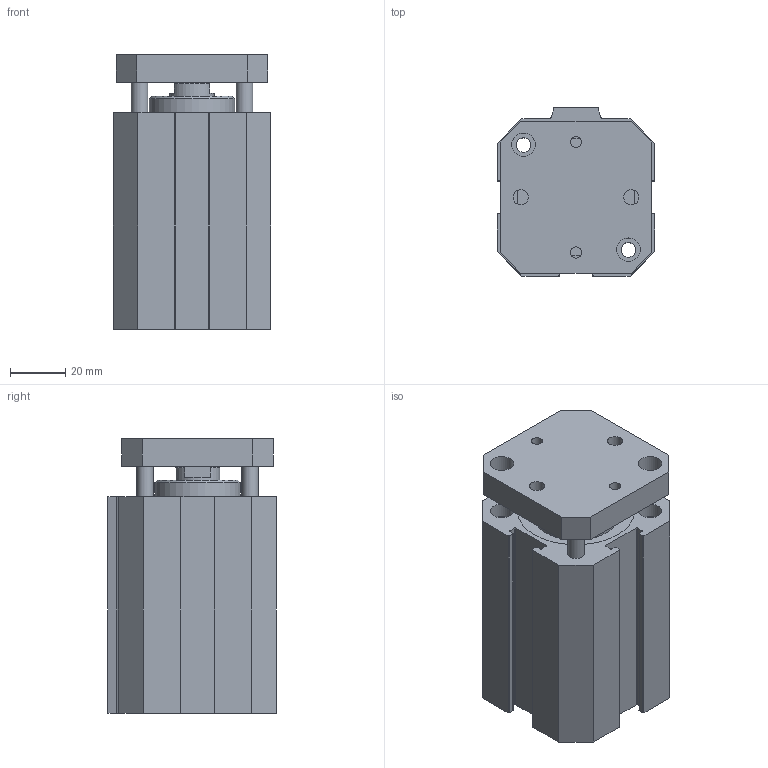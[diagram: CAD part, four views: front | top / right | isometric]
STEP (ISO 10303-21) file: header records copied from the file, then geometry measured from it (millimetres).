
FILE_DESCRIPTION(/* description */ ('TUBO PROFILATO COMPATTI Ø40'),/* implementation_level */ '2;1');
FILE_NAME(/* name */ 'I:\Area Tecnica\Disegni\VARIE-3D\Componenti\1500\Ø40\15##_40_####_#\1501_40_0045_AR.stp',/* time_stamp */ '2016-08-24T11:51:54+02:00',/* author */ ('Maniean1'),/* organization */ ('Pneumax S.p.A.'),/* preprocessor_version */ 'ST-DEVELOPER v15.2',/* originating_system */ 'Autodesk Inventor 2014',/* authorisation */ '');
FILE_SCHEMA (('AUTOMOTIVE_DESIGN { 1 0 10303 214 3 1 1 }'));
Length unit declared in the file: millimetre
Products named in the file (3): C_1501_40_0045_AR; S_1501_40_0045_AR; 1501_40_0045_AR
Bounding box: 57 x 61 x 99.5 mm (x, y, z)
Volume: 205981.3 mm3; surface area: 64007.7 mm2
Topology: 2 solids, 2 shells, 137 faces, 337 edges, 226 vertices
Faces by surface type: plane 74, cylinder 58, cone 5
Full cylindrical faces by diameter (mm): 4.134 x2, 5.3 x4, 5.5 x2, 6 x4, 8.5 x8, 8.566 x2, 9 x2, 16 x2, 31 x2, 40 x2, 42.5 x2
Entity records: 3998 total; most frequent: DIRECTION 698, CARTESIAN_POINT 662, ORIENTED_EDGE 588, EDGE_CURVE 294, AXIS2_PLACEMENT_3D 266, VERTEX_POINT 218, EDGE_LOOP 214, LINE 166
